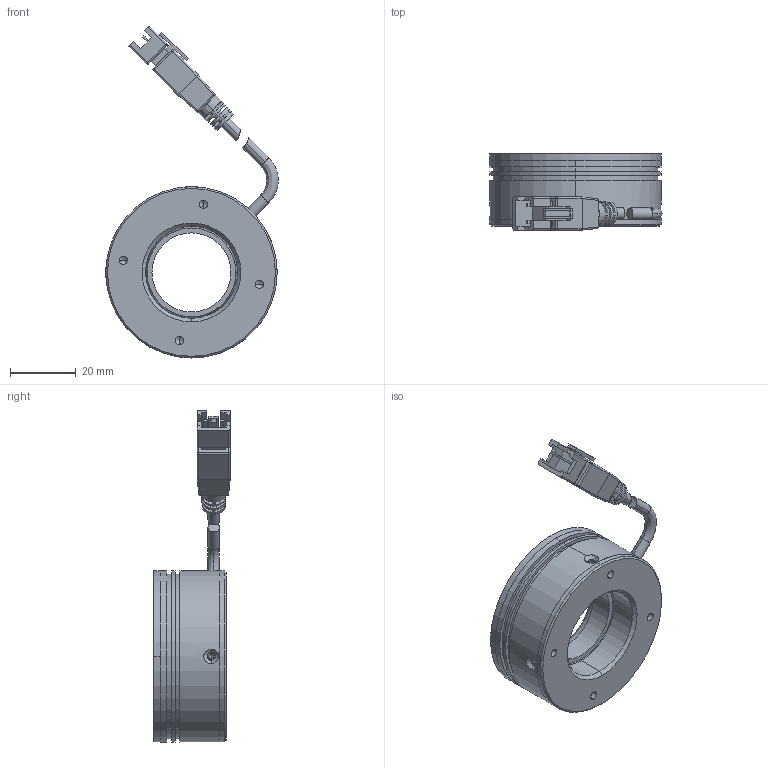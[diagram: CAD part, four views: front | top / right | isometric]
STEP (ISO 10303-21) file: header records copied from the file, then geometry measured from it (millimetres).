
FILE_DESCRIPTION (( 'STEP AP203' ), '1' );
FILE_NAME ('P-RL-52-60-00.STEP', '2026-03-13T07:36:03', ( '' ), ( '' ), 'SwSTEP 2.0', 'SolidWorks 2022', '' );
FILE_SCHEMA (( 'CONFIG_CONTROL_DESIGN' ));
Length unit declared in the file: millimetre
Products named in the file (6): P-RL-52-60-00; 光源线; P-RL-52-60-001; 灯珠-00; P-RL-52-60-002; DFP-RL-52-60
Assembly tree (5 placements, depth 2):
  P-RL-52-60-00
    DFP-RL-52-60
    P-RL-52-60-001
    P-RL-52-60-002
    灯珠-00
    光源线
Bounding box: 52.33 x 23.31 x 100.84 mm (x, y, z)
Volume: 22472.6 mm3; surface area: 22352 mm2
Topology: 7 solids, 7 shells, 380 faces, 935 edges, 556 vertices
Faces by surface type: plane 135, cylinder 133, cone 68, torus 24, bspline 20
Entity records: 12681 total; most frequent: CARTESIAN_POINT 3285, DIRECTION 1863, ORIENTED_EDGE 1798, EDGE_CURVE 899, AXIS2_PLACEMENT_3D 698, VERTEX_POINT 556, VECTOR 467, LINE 467
